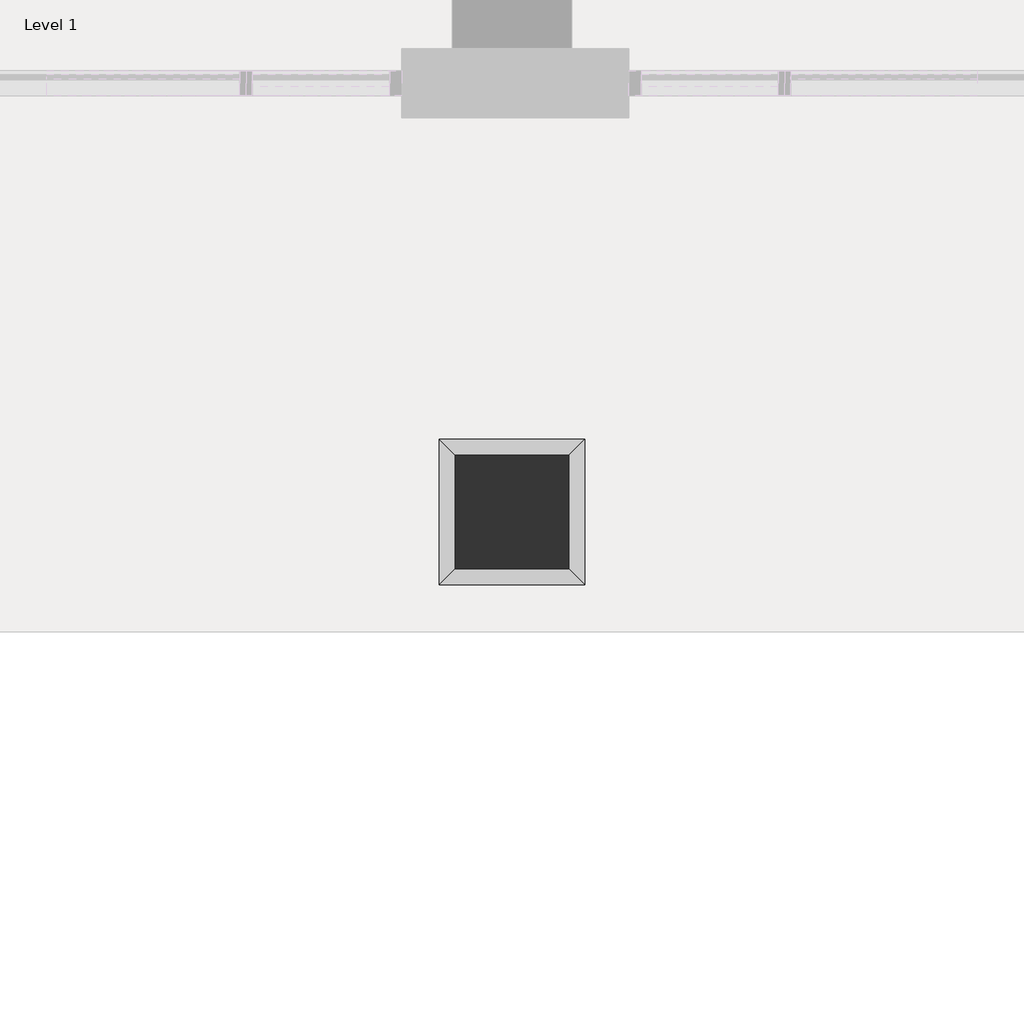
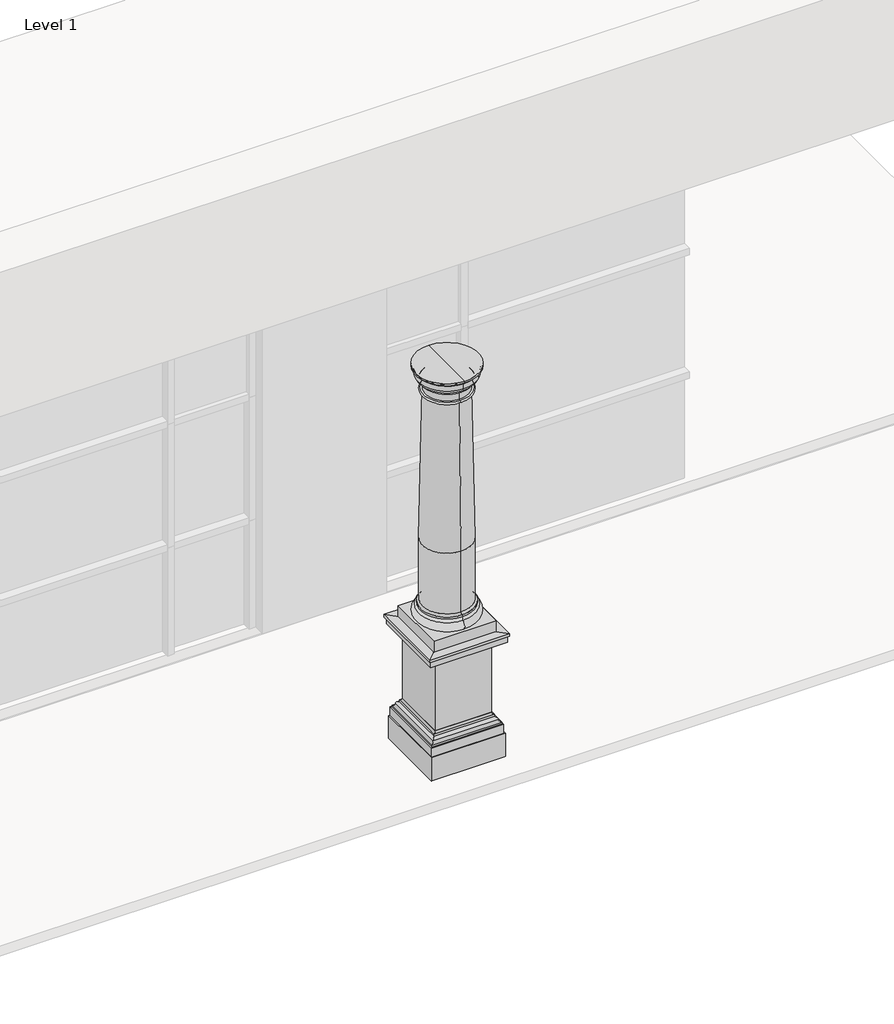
# One storey, part 6 of 8: 1 column.
"""IFC4 building model written with IfcOpenShell, lengths in millimetres."""

from ifc_helpers import new_model, si_unit, point, frame, origin, place, context, project, spatial, polyline, circle_curve, ellipse_curve, trimmed, outline, extrude, faceted_brep, element, save
from ifc_brep_helpers import plane_surface, cylinder_surface, revolved_surface, advanced_brep

model = new_model("IFC4")

# Units and contexts
model_context = context("Model", 3, world=origin())
ifc_project = project(units=[si_unit("LENGTHUNIT", "METRE", prefix="MILLI")], contexts=[model_context])

# Site, building, storey
site = spatial("IfcSite", under=ifc_project)
building = spatial("IfcBuilding", under=site)
storey = spatial("IfcBuildingStorey", under=building, Name="Level 1", Elevation=0.0)

# Column
placement = place(None, origin())
element("IfcColumn", 1, ObjectType="Doric Column : 16'  Height (10 2/3 x Dia.)", at=placement, inside=storey, context=model_context, shape_type="SolidModel", body=[
    extrude(outline(polyline([(10181.1733448, -1720.0769576), (10181.1733448, -2297.9269576), (9603.3233448, -2297.9269576), (9603.3233448, -1720.0769576), (10181.1733448, -1720.0769576)])), frame((0.0, 0.0, 1117.6), z_axis=(0.0, 0.0, 1.0), x_axis=(1.0, 0.0, 0.0)), (0.0, 0.0, 1.0), 107.95),
    faceted_brep([(9663.6483448, -2237.6019576, 1117.6), (9520.7733448, -2380.4769576, 1117.6), (10263.7233448, -2380.4769576, 1117.6), (10120.8483448, -2237.6019576, 1117.6), (9663.6483448, -2237.6019576, 1003.3), (10120.8483448, -2237.6019576, 1003.3), (9592.3654277, -2308.8848746, 1003.3), (10192.1312619, -2308.8848746, 1003.3), (9558.8733448, -2342.3769576, 1028.7), (10225.6233448, -2342.3769576, 1028.7), (9533.4733448, -2367.7769576, 1028.7), (10251.0233448, -2367.7769576, 1028.7), (9533.4733448, -2367.7769576, 1092.2), (10251.0233448, -2367.7769576, 1092.2), (9520.7733448, -2380.4769576, 1092.2), (10263.7233448, -2380.4769576, 1092.2), (10263.7233448, -1637.5269576, 1117.6), (10120.8483448, -1780.4019576, 1117.6), (10120.8483448, -1780.4019576, 1003.3), (10192.1312619, -1709.1190405, 1003.3), (10225.6233448, -1675.6269576, 1028.7), (10251.0233448, -1650.2269576, 1028.7), (10251.0233448, -1650.2269576, 1092.2), (10263.7233448, -1637.5269576, 1092.2), (9520.7733448, -1637.5269576, 1117.6), (9663.6483448, -1780.4019576, 1117.6), (9663.6483448, -1780.4019576, 1003.3), (9592.3654277, -1709.1190405, 1003.3), (9558.8733448, -1675.6269576, 1028.7), (9533.4733448, -1650.2269576, 1028.7), (9533.4733448, -1650.2269576, 1092.2), (9520.7733448, -1637.5269576, 1092.2)], [[[0, 1, 2, 3]], [[4, 0, 3, 5]], [[6, 4, 5, 7]], [[8, 6, 7, 9]], [[10, 8, 9, 11]], [[12, 10, 11, 13]], [[14, 12, 13, 15]], [[1, 14, 15, 2]], [[3, 2, 16, 17]], [[5, 3, 17, 18]], [[7, 5, 18, 19]], [[9, 7, 19, 20]], [[11, 9, 20, 21]], [[13, 11, 21, 22]], [[15, 13, 22, 23]], [[2, 15, 23, 16]], [[17, 16, 24, 25]], [[18, 17, 25, 26]], [[19, 18, 26, 27]], [[20, 19, 27, 28]], [[21, 20, 28, 29]], [[22, 21, 29, 30]], [[23, 22, 30, 31]], [[16, 23, 31, 24]], [[25, 24, 1, 0]], [[26, 25, 0, 4]], [[27, 26, 4, 6]], [[28, 27, 6, 8]], [[29, 28, 8, 10]], [[30, 29, 10, 12]], [[31, 30, 12, 14]], [[24, 31, 14, 1]]]),
    advanced_brep(
    [(9892.2483448, -2256.6519576, 1358.9), (9892.2483448, -1761.3519576, 1358.9), (9892.2483448, -1780.4019576, 1377.95), (9892.2483448, -2237.6019576, 1377.95), (9892.2483448, -1780.4019576, 1976.4375), (9892.2483448, -2237.6019576, 1976.4375), (9892.2483448, -2256.6519576, 1339.85), (9892.2483448, -1761.3519576, 1339.85), (9892.2483448, -2256.6519576, 1308.1), (9892.2483448, -1761.3519576, 1308.1), (9892.2483448, -2256.6519576, 1225.55), (9892.2483448, -1761.3519576, 1225.55), (9892.2483448, -2009.0019576, 1225.55), (9892.2483448, -1808.9769576, 3440.1125), (9892.2483448, -2209.0269576, 3440.1125), (9892.2483448, -2301.1019576, 3675.0625601), (9892.2483448, -1716.9019576, 3675.0625601), (9892.2483448, -1716.9019576, 3694.1125), (9892.2483448, -2301.1019576, 3694.1125), (9892.2483448, -2009.0019576, 3694.1125), (9892.2483448, -2282.0518974, 3656.0125), (9892.2483448, -1735.9520177, 3656.0125), (9892.2483448, -2278.8769576, 3656.0125), (9892.2483448, -1739.1269576, 3656.0125), (9892.2483448, -2278.8769576, 3605.2125), (9892.2483448, -1739.1269576, 3605.2125), (9892.2483448, -2272.5269576, 3605.2125), (9892.2483448, -1745.4769576, 3605.2125), (9892.2483448, -2228.0769576, 3560.7625), (9892.2483448, -1789.9269576, 3560.7625), (9892.2483448, -2228.0769576, 3541.7125), (9892.2483448, -1789.9269576, 3541.7125), (9892.2483448, -2209.0269576, 3541.7125), (9892.2483448, -1808.9769576, 3541.7125), (9892.2483448, -2209.0269576, 3459.1625), (9892.2483448, -1808.9769576, 3459.1625), (9892.2483448, -2228.0769576, 3459.1625), (9892.2483448, -1789.9269576, 3459.1625), (9892.2483448, -2228.0769576, 3440.1125), (9892.2483448, -1789.9269576, 3440.1125)],
    [
        (0, 1, circle_curve(frame((9892.2483448, -2009.0019576, 1358.9), z_axis=(0.0, 0.0, 1.0), x_axis=(0.0, 1.0, 0.0)), 247.65)),
        (1, 2, circle_curve(frame((9892.2483448, -1761.3519576, 1377.95), z_axis=(-1.0, 0.0, 0.0), x_axis=(0.0, -1.0, 0.0)), 19.05)),
        (2, 3, circle_curve(frame((9892.2483448, -2009.0019576, 1377.95), z_axis=(0.0, 0.0, -1.0), x_axis=(0.0, 1.0, 0.0)), 228.6)),
        (3, 0, circle_curve(frame((9892.2483448, -2256.6519576, 1377.95), z_axis=(-1.0, 0.0, 0.0), x_axis=(0.0, 1.0, 0.0)), 19.05)),
        (2, 4),
        (4, 5, circle_curve(frame((9892.2483448, -2009.0019576, 1976.4375), z_axis=(0.0, 0.0, -1.0), x_axis=(0.0, 1.0, 0.0)), 228.6)),
        (5, 3),
        (2, 3, circle_curve(frame((9892.2483448, -2009.0019576, 1377.95), z_axis=(0.0, 0.0, 1.0), x_axis=(0.0, 1.0, 0.0)), 228.6)),
        (5, 4, circle_curve(frame((9892.2483448, -2009.0019576, 1976.4375), z_axis=(0.0, 0.0, -1.0), x_axis=(0.0, 1.0, 0.0)), 228.6)),
        (1, 0, circle_curve(frame((9892.2483448, -2009.0019576, 1358.9), z_axis=(0.0, 0.0, 1.0), x_axis=(0.0, 1.0, 0.0)), 247.65)),
        (6, 7, circle_curve(frame((9892.2483448, -2009.0019576, 1339.85), z_axis=(0.0, 0.0, 1.0), x_axis=(0.0, 1.0, 0.0)), 247.65)),
        (7, 1),
        (0, 6),
        (7, 6, circle_curve(frame((9892.2483448, -2009.0019576, 1339.85), z_axis=(0.0, 0.0, 1.0), x_axis=(0.0, 1.0, 0.0)), 247.65)),
        (8, 9, circle_curve(frame((9892.2483448, -2009.0019576, 1308.1), z_axis=(0.0, 0.0, 1.0), x_axis=(0.0, 1.0, 0.0)), 247.65)),
        (9, 7, circle_curve(frame((9892.2483448, -1761.3519576, 1323.975), z_axis=(1.0, 0.0, 0.0), x_axis=(0.0, -1.0, 0.0)), 15.875)),
        (6, 8, circle_curve(frame((9892.2483448, -2256.6519576, 1323.975), z_axis=(1.0, 0.0, 0.0), x_axis=(0.0, 1.0, 0.0)), 15.875)),
        (9, 8, circle_curve(frame((9892.2483448, -2009.0019576, 1308.1), z_axis=(0.0, 0.0, 1.0), x_axis=(0.0, 1.0, 0.0)), 247.65)),
        (10, 11, circle_curve(frame((9892.2483448, -2009.0019576, 1225.55), z_axis=(0.0, 0.0, 1.0), x_axis=(0.0, 1.0, 0.0)), 247.65)),
        (11, 9, circle_curve(frame((9892.2483448, -1761.3519576, 1266.825), z_axis=(1.0, 0.0, 0.0), x_axis=(0.0, -1.0, 0.0)), 41.275)),
        (8, 10, circle_curve(frame((9892.2483448, -2256.6519576, 1266.825), z_axis=(1.0, 0.0, 0.0), x_axis=(0.0, 1.0, 0.0)), 41.275)),
        (11, 10, circle_curve(frame((9892.2483448, -2009.0019576, 1225.55), z_axis=(0.0, 0.0, 1.0), x_axis=(0.0, 1.0, 0.0)), 247.65)),
        (12, 11),
        (10, 12),
        (4, 13),
        (13, 14, circle_curve(frame((9892.2483448, -2009.0019576, 3440.1125), z_axis=(0.0, 0.0, -1.0), x_axis=(0.0, 1.0, 0.0)), 200.025)),
        (14, 5),
        (14, 13, circle_curve(frame((9892.2483448, -2009.0019576, 3440.1125), z_axis=(0.0, 0.0, -1.0), x_axis=(0.0, 1.0, 0.0)), 200.025)),
        (15, 16, circle_curve(frame((9892.2483448, -2009.0019576, 3675.0625601), z_axis=(0.0, 0.0, 1.0), x_axis=(0.0, 1.0, 0.0)), 292.1)),
        (16, 17),
        (17, 18, circle_curve(frame((9892.2483448, -2009.0019576, 3694.1125), z_axis=(0.0, 0.0, -1.0), x_axis=(0.0, 1.0, 0.0)), 292.1)),
        (18, 15),
        (17, 19),
        (19, 18),
        (17, 18, circle_curve(frame((9892.2483448, -2009.0019576, 3694.1125), z_axis=(0.0, 0.0, 1.0), x_axis=(0.0, 1.0, 0.0)), 292.1)),
        (16, 15, circle_curve(frame((9892.2483448, -2009.0019576, 3675.0625601), z_axis=(0.0, 0.0, 1.0), x_axis=(0.0, 1.0, 0.0)), 292.1)),
        (20, 21, circle_curve(frame((9892.2483448, -2009.0019576, 3656.0125), z_axis=(0.0, 0.0, 1.0), x_axis=(0.0, 1.0, 0.0)), 273.0499399)),
        (21, 16, circle_curve(frame((9892.2483448, -1716.9019576, 3656.0125), z_axis=(-1.0, 0.0, 0.0), x_axis=(0.0, -1.0, 0.0)), 19.0500601)),
        (15, 20, circle_curve(frame((9892.2483448, -2301.1019576, 3656.0125), z_axis=(-1.0, 0.0, 0.0), x_axis=(0.0, 1.0, 0.0)), 19.0500601)),
        (21, 20, circle_curve(frame((9892.2483448, -2009.0019576, 3656.0125), z_axis=(0.0, 0.0, 1.0), x_axis=(0.0, 1.0, 0.0)), 273.0499399)),
        (22, 23, circle_curve(frame((9892.2483448, -2009.0019576, 3656.0125), z_axis=(0.0, 0.0, 1.0), x_axis=(0.0, 1.0, 0.0)), 269.875)),
        (23, 21),
        (20, 22),
        (23, 22, circle_curve(frame((9892.2483448, -2009.0019576, 3656.0125), z_axis=(0.0, 0.0, 1.0), x_axis=(0.0, 1.0, 0.0)), 269.875)),
        (24, 25, circle_curve(frame((9892.2483448, -2009.0019576, 3605.2125), z_axis=(0.0, 0.0, 1.0), x_axis=(0.0, 1.0, 0.0)), 269.875)),
        (25, 23),
        (22, 24),
        (25, 24, circle_curve(frame((9892.2483448, -2009.0019576, 3605.2125), z_axis=(0.0, 0.0, 1.0), x_axis=(0.0, 1.0, 0.0)), 269.875)),
        (26, 27, circle_curve(frame((9892.2483448, -2009.0019576, 3605.2125), z_axis=(0.0, 0.0, 1.0), x_axis=(0.0, 1.0, 0.0)), 263.525)),
        (27, 25),
        (24, 26),
        (27, 26, circle_curve(frame((9892.2483448, -2009.0019576, 3605.2125), z_axis=(0.0, 0.0, 1.0), x_axis=(0.0, 1.0, 0.0)), 263.525)),
        (28, 29, circle_curve(frame((9892.2483448, -2009.0019576, 3560.7625), z_axis=(0.0, 0.0, 1.0), x_axis=(0.0, 1.0, 0.0)), 219.075)),
        (29, 27, circle_curve(frame((9892.2483448, -1789.9269576, 3605.2125), z_axis=(1.0, 0.0, 0.0), x_axis=(0.0, -1.0, 0.0)), 44.45)),
        (26, 28, circle_curve(frame((9892.2483448, -2228.0769576, 3605.2125), z_axis=(1.0, 0.0, 0.0), x_axis=(0.0, 1.0, 0.0)), 44.45)),
        (29, 28, circle_curve(frame((9892.2483448, -2009.0019576, 3560.7625), z_axis=(0.0, 0.0, 1.0), x_axis=(0.0, 1.0, 0.0)), 219.075)),
        (30, 31, circle_curve(frame((9892.2483448, -2009.0019576, 3541.7125), z_axis=(0.0, 0.0, 1.0), x_axis=(0.0, 1.0, 0.0)), 219.075)),
        (31, 29, circle_curve(frame((9892.2483448, -1789.9269576, 3551.2375), z_axis=(1.0, 0.0, 0.0), x_axis=(0.0, -1.0, 0.0)), 9.525)),
        (28, 30, circle_curve(frame((9892.2483448, -2228.0769576, 3551.2375), z_axis=(1.0, 0.0, 0.0), x_axis=(0.0, 1.0, 0.0)), 9.525)),
        (31, 30, circle_curve(frame((9892.2483448, -2009.0019576, 3541.7125), z_axis=(0.0, 0.0, 1.0), x_axis=(0.0, 1.0, 0.0)), 219.075)),
        (32, 33, circle_curve(frame((9892.2483448, -2009.0019576, 3541.7125), z_axis=(0.0, 0.0, 1.0), x_axis=(0.0, 1.0, 0.0)), 200.025)),
        (33, 31),
        (30, 32),
        (33, 32, circle_curve(frame((9892.2483448, -2009.0019576, 3541.7125), z_axis=(0.0, 0.0, 1.0), x_axis=(0.0, 1.0, 0.0)), 200.025)),
        (34, 35, circle_curve(frame((9892.2483448, -2009.0019576, 3459.1625), z_axis=(0.0, 0.0, 1.0), x_axis=(0.0, 1.0, 0.0)), 200.025)),
        (35, 33),
        (32, 34),
        (35, 34, circle_curve(frame((9892.2483448, -2009.0019576, 3459.1625), z_axis=(0.0, 0.0, 1.0), x_axis=(0.0, 1.0, 0.0)), 200.025)),
        (36, 37, circle_curve(frame((9892.2483448, -2009.0019576, 3459.1625), z_axis=(0.0, 0.0, 1.0), x_axis=(0.0, 1.0, 0.0)), 219.075)),
        (37, 35),
        (34, 36),
        (37, 36, circle_curve(frame((9892.2483448, -2009.0019576, 3459.1625), z_axis=(0.0, 0.0, 1.0), x_axis=(0.0, 1.0, 0.0)), 219.075)),
        (38, 39, circle_curve(frame((9892.2483448, -2009.0019576, 3440.1125), z_axis=(0.0, 0.0, 1.0), x_axis=(0.0, 1.0, 0.0)), 219.075)),
        (39, 37, circle_curve(frame((9892.2483448, -1789.9269576, 3449.6375), z_axis=(1.0, 0.0, 0.0), x_axis=(0.0, -1.0, 0.0)), 9.525)),
        (36, 38, circle_curve(frame((9892.2483448, -2228.0769576, 3449.6375), z_axis=(1.0, 0.0, 0.0), x_axis=(0.0, 1.0, 0.0)), 9.525)),
        (39, 38, circle_curve(frame((9892.2483448, -2009.0019576, 3440.1125), z_axis=(0.0, 0.0, 1.0), x_axis=(0.0, 1.0, 0.0)), 219.075)),
        (13, 39),
        (38, 14),
    ],
    [
        revolved_surface(trimmed(ellipse_curve(frame((9892.2483448, -1761.3519576, 1377.95), z_axis=(1.0, 0.0, 0.0), x_axis=(0.0, -1.0, 0.0)), 19.05, 19.05), [point((9892.2483448, -1780.4019576, 1377.95))], [point((9892.2483448, -1761.3519576, 1358.9))], True, "CARTESIAN"), (9892.2483448, -2009.0019576, 3694.1125), (0.0, 0.0, -1.0)),
        cylinder_surface(frame((9892.2483448, -2009.0019576, 3694.1125), z_axis=(0.0, 0.0, -1.0), x_axis=(0.0, 1.0, 0.0)), 228.6),
        cylinder_surface(frame((9892.2483448, -2009.0019576, 3694.1125), z_axis=(0.0, 0.0, -1.0), x_axis=(0.0, 1.0, 0.0)), 247.65),
        revolved_surface(trimmed(ellipse_curve(frame((9892.2483448, -1761.3519576, 1323.975), z_axis=(-1.0, 0.0, 0.0), x_axis=(0.0, -1.0, 0.0)), 15.875, 15.875), [point((9892.2483448, -1761.3519576, 1339.85))], [point((9892.2483448, -1761.3519576, 1308.1))], True, "CARTESIAN"), (9892.2483448, -2009.0019576, 3694.1125), (0.0, 0.0, -1.0)),
        revolved_surface(trimmed(ellipse_curve(frame((9892.2483448, -1761.3519576, 1266.825), z_axis=(-1.0, 0.0, 0.0), x_axis=(0.0, -1.0, 0.0)), 41.275, 41.275), [point((9892.2483448, -1761.3519576, 1308.1))], [point((9892.2483448, -1761.3519576, 1225.55))], True, "CARTESIAN"), (9892.2483448, -2009.0019576, 3694.1125), (0.0, 0.0, -1.0)),
        plane_surface(frame((9892.2483448, -2009.0019576, 1225.55), z_axis=(0.0, 0.0, -1.0), x_axis=(0.0, 1.0, 0.0))),
        revolved_surface(polyline([(9892.2483448, -1808.9769576, 3440.1125), (9892.2483448, -1780.4019576, 1976.4375)]), (9892.2483448, -2009.0019576, 3694.1125), (0.0, 0.0, -1.0)),
        cylinder_surface(frame((9892.2483448, -2009.0019576, 3694.1125), z_axis=(0.0, 0.0, -1.0), x_axis=(0.0, 1.0, 0.0)), 292.1),
        plane_surface(frame((9892.2483448, -2009.0019576, 3694.1125), z_axis=(0.0, 0.0, 1.0), x_axis=(0.0, 1.0, 0.0))),
        revolved_surface(trimmed(ellipse_curve(frame((9892.2483448, -1716.9019576, 3656.0125), z_axis=(1.0, 0.0, 0.0), x_axis=(0.0, -1.0, 0.0)), 19.0500601, 19.0500601), [point((9892.2483448, -1716.9019576, 3675.0625601))], [point((9892.2483448, -1735.9520177, 3656.0125))], True, "CARTESIAN"), (9892.2483448, -2009.0019576, 3694.1125), (0.0, 0.0, -1.0)),
        plane_surface(frame((9892.2483448, -2009.0019576, 3656.0125), z_axis=(0.0, 0.0, -1.0), x_axis=(0.0, 1.0, 0.0))),
        cylinder_surface(frame((9892.2483448, -2009.0019576, 3694.1125), z_axis=(0.0, 0.0, -1.0), x_axis=(0.0, 1.0, 0.0)), 269.875),
        plane_surface(frame((9892.2483448, -2009.0019576, 3605.2125), z_axis=(0.0, 0.0, -1.0), x_axis=(0.0, 1.0, 0.0))),
        revolved_surface(trimmed(ellipse_curve(frame((9892.2483448, -1789.9269576, 3605.2125), z_axis=(-1.0, 0.0, 0.0), x_axis=(0.0, -1.0, 0.0)), 44.45, 44.45), [point((9892.2483448, -1745.4769576, 3605.2125))], [point((9892.2483448, -1789.9269576, 3560.7625))], True, "CARTESIAN"), (9892.2483448, -2009.0019576, 3694.1125), (0.0, 0.0, -1.0)),
        revolved_surface(trimmed(ellipse_curve(frame((9892.2483448, -1789.9269576, 3551.2375), z_axis=(-1.0, 0.0, 0.0), x_axis=(0.0, -1.0, 0.0)), 9.525, 9.525), [point((9892.2483448, -1789.9269576, 3560.7625))], [point((9892.2483448, -1789.9269576, 3541.7125))], True, "CARTESIAN"), (9892.2483448, -2009.0019576, 3694.1125), (0.0, 0.0, -1.0)),
        plane_surface(frame((9892.2483448, -2009.0019576, 3541.7125), z_axis=(0.0, 0.0, -1.0), x_axis=(0.0, 1.0, 0.0))),
        cylinder_surface(frame((9892.2483448, -2009.0019576, 3694.1125), z_axis=(0.0, 0.0, -1.0), x_axis=(0.0, 1.0, 0.0)), 200.025),
        plane_surface(frame((9892.2483448, -2009.0019576, 3459.1625), z_axis=(0.0, 0.0, 1.0), x_axis=(0.0, 1.0, 0.0))),
        revolved_surface(trimmed(ellipse_curve(frame((9892.2483448, -1789.9269576, 3449.6375), z_axis=(-1.0, 0.0, 0.0), x_axis=(0.0, -1.0, 0.0)), 9.525, 9.525), [point((9892.2483448, -1789.9269576, 3459.1625))], [point((9892.2483448, -1789.9269576, 3440.1125))], True, "CARTESIAN"), (9892.2483448, -2009.0019576, 3694.1125), (0.0, 0.0, -1.0)),
        plane_surface(frame((9892.2483448, -2009.0019576, 3440.1125), z_axis=(0.0, 0.0, -1.0), x_axis=(0.0, 1.0, 0.0))),
    ],
    [
        (0, [[1, 2, 3, 4]]),
        (1, [[-3, 5, 6, 7]]),
        (1, [[8, -7, 9, -5]]),
        (0, [[10, -4, -8, -2]]),
        (2, [[11, 12, -1, 13]]),
        (2, [[14, -13, -10, -12]]),
        (3, [[15, 16, -11, 17]]),
        (3, [[18, -17, -14, -16]]),
        (4, [[19, 20, -15, 21]]),
        (4, [[22, -21, -18, -20]]),
        (5, [[23, -19, 24]]),
        (5, [[-24, -22, -23]]),
        (6, [[-6, 25, 26, 27]]),
        (6, [[-9, -27, 28, -25]]),
        (7, [[29, 30, 31, 32]]),
        (8, [[-31, 33, 34]]),
        (8, [[35, -34, -33]]),
        (7, [[36, -32, -35, -30]]),
        (9, [[37, 38, -29, 39]]),
        (9, [[40, -39, -36, -38]]),
        (10, [[41, 42, -37, 43]]),
        (10, [[44, -43, -40, -42]]),
        (11, [[45, 46, -41, 47]]),
        (11, [[48, -47, -44, -46]]),
        (12, [[49, 50, -45, 51]]),
        (12, [[52, -51, -48, -50]]),
        (13, [[53, 54, -49, 55]]),
        (13, [[56, -55, -52, -54]]),
        (14, [[57, 58, -53, 59]]),
        (14, [[60, -59, -56, -58]]),
        (15, [[61, 62, -57, 63]]),
        (15, [[64, -63, -60, -62]]),
        (16, [[65, 66, -61, 67]]),
        (16, [[68, -67, -64, -66]]),
        (17, [[69, 70, -65, 71]]),
        (17, [[72, -71, -68, -70]]),
        (18, [[73, 74, -69, 75]]),
        (18, [[76, -75, -72, -74]]),
        (19, [[-26, 77, -73, 78]]),
        (19, [[-28, -78, -76, -77]]),
    ],
),
    advanced_brep(
    [(10237.6934911, -1663.5568112, -101.6), (10237.6934911, -1663.5568112, 127.0), (10237.6934911, -2354.4471039, 127.0), (10237.6934911, -2354.4471039, -101.6), (10120.8483448, -1780.4019576, -101.6), (10120.8483448, -2237.6019576, -101.6), (10120.8483448, -1780.4019576, 317.5), (10120.8483448, -2237.6019576, 317.5), (10155.1434911, -1746.1068112, 317.5), (10155.1434911, -2271.8971039, 317.5), (10174.1934911, -1727.0568112, 298.45), (10174.1934911, -2290.9471039, 298.45), (10174.1934911, -1727.0568112, 279.4), (10174.1934911, -2290.9471039, 279.4), (10196.4184911, -1704.8318112, 257.175), (10196.4184911, -2313.1721039, 257.175), (10218.6434911, -1682.6068112, 234.95), (10218.6434911, -2335.3971039, 234.95), (10218.6434911, -1682.6068112, 215.9), (10218.6434911, -2335.3971039, 215.9), (10228.1684911, -1673.0818112, 215.9), (10228.1684911, -2344.9221039, 215.9), (10228.1684911, -1673.0818112, 127.0), (10228.1684911, -2344.9221039, 127.0), (9546.8031985, -2354.4471039, 127.0), (9546.8031985, -2354.4471039, -101.6), (9663.6483448, -2237.6019576, -101.6), (9663.6483448, -2237.6019576, 317.5), (9629.3531985, -2271.8971039, 317.5), (9610.3031985, -2290.9471039, 298.45), (9610.3031985, -2290.9471039, 279.4), (9588.0781985, -2313.1721039, 257.175), (9565.8531985, -2335.3971039, 234.95), (9565.8531985, -2335.3971039, 215.9), (9556.3281985, -2344.9221039, 215.9), (9556.3281985, -2344.9221039, 127.0), (9546.8031985, -1663.5568112, 127.0), (9546.8031985, -1663.5568112, -101.6), (9663.6483448, -1780.4019576, -101.6), (9663.6483448, -1780.4019576, 317.5), (9629.3531985, -1746.1068112, 317.5), (9610.3031985, -1727.0568112, 298.45), (9610.3031985, -1727.0568112, 279.4), (9588.0781985, -1704.8318112, 257.175), (9565.8531985, -1682.6068112, 234.95), (9565.8531985, -1682.6068112, 215.9), (9556.3281985, -1673.0818112, 215.9), (9556.3281985, -1673.0818112, 127.0)],
    [
        (0, 1),
        (1, 2),
        (2, 3),
        (3, 0),
        (4, 0),
        (3, 5),
        (5, 4),
        (6, 4),
        (5, 7),
        (7, 6),
        (8, 6),
        (7, 9),
        (9, 8),
        (10, 8, ellipse_curve(frame((10174.1934911, -1727.0568112, 317.5), z_axis=(-0.7071067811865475, 0.7071067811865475, 0.0), x_axis=(-0.7071067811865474, -0.7071067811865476, 0.0)), 26.9407684, 19.05)),
        (9, 11, ellipse_curve(frame((10174.1934911, -2290.9471039, 317.5), z_axis=(-0.7071067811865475, -0.7071067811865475, 0.0), x_axis=(0.7071067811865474, -0.7071067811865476, 0.0)), 26.9407684, 19.05)),
        (11, 10),
        (12, 10),
        (11, 13),
        (13, 12),
        (14, 12, ellipse_curve(frame((10174.1934911, -1727.0568112, 257.175), z_axis=(0.7071067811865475, -0.7071067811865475, 0.0), x_axis=(0.7071067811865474, 0.7071067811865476, 0.0)), 31.4308964, 22.225)),
        (13, 15, ellipse_curve(frame((10174.1934911, -2290.9471039, 257.175), z_axis=(0.7071067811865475, 0.7071067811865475, 0.0), x_axis=(-0.7071067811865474, 0.7071067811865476, 0.0)), 31.4308964, 22.225)),
        (15, 14),
        (16, 14, ellipse_curve(frame((10218.6434911, -1682.6068112, 257.175), z_axis=(-0.7071067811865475, 0.7071067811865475, 0.0), x_axis=(-0.7071067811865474, -0.7071067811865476, 0.0)), 31.4308964, 22.225)),
        (15, 17, ellipse_curve(frame((10218.6434911, -2335.3971039, 257.175), z_axis=(-0.7071067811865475, -0.7071067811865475, 0.0), x_axis=(0.7071067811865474, -0.7071067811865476, 0.0)), 31.4308964, 22.225)),
        (17, 16),
        (18, 16),
        (17, 19),
        (19, 18),
        (20, 18),
        (19, 21),
        (21, 20),
        (22, 20),
        (21, 23),
        (23, 22),
        (1, 22),
        (23, 2),
        (2, 24),
        (24, 25),
        (25, 3),
        (25, 26),
        (26, 5),
        (26, 27),
        (27, 7),
        (27, 28),
        (28, 9),
        (28, 29, ellipse_curve(frame((9610.3031985, -2290.9471039, 317.5), z_axis=(-0.7071067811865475, 0.7071067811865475, 0.0), x_axis=(-0.7071067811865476, -0.7071067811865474, 0.0)), 26.9407684, 19.05)),
        (29, 11),
        (29, 30),
        (30, 13),
        (30, 31, ellipse_curve(frame((9610.3031985, -2290.9471039, 257.175), z_axis=(0.7071067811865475, -0.7071067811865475, 0.0), x_axis=(0.7071067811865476, 0.7071067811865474, 0.0)), 31.4308964, 22.225)),
        (31, 15),
        (31, 32, ellipse_curve(frame((9565.8531985, -2335.3971039, 257.175), z_axis=(-0.7071067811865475, 0.7071067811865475, 0.0), x_axis=(-0.7071067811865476, -0.7071067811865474, 0.0)), 31.4308964, 22.225)),
        (32, 17),
        (32, 33),
        (33, 19),
        (33, 34),
        (34, 21),
        (34, 35),
        (35, 23),
        (35, 24),
        (24, 36),
        (36, 37),
        (37, 25),
        (37, 38),
        (38, 26),
        (38, 39),
        (39, 27),
        (39, 40),
        (40, 28),
        (40, 41, ellipse_curve(frame((9610.3031985, -1727.0568112, 317.5), z_axis=(0.7071067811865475, 0.7071067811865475, 0.0), x_axis=(-0.7071067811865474, 0.7071067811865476, 0.0)), 26.9407684, 19.05)),
        (41, 29),
        (41, 42),
        (42, 30),
        (42, 43, ellipse_curve(frame((9610.3031985, -1727.0568112, 257.175), z_axis=(-0.7071067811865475, -0.7071067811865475, 0.0), x_axis=(0.7071067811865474, -0.7071067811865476, 0.0)), 31.4308964, 22.225)),
        (43, 31),
        (43, 44, ellipse_curve(frame((9565.8531985, -1682.6068112, 257.175), z_axis=(0.7071067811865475, 0.7071067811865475, 0.0), x_axis=(-0.7071067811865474, 0.7071067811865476, 0.0)), 31.4308964, 22.225)),
        (44, 32),
        (44, 45),
        (45, 33),
        (45, 46),
        (46, 34),
        (46, 47),
        (47, 35),
        (47, 36),
        (36, 1),
        (0, 37),
        (4, 38),
        (6, 39),
        (8, 40),
        (10, 41),
        (12, 42),
        (14, 43),
        (16, 44),
        (18, 45),
        (20, 46),
        (22, 47),
    ],
    [
        plane_surface(frame((10237.6934911, -1663.5568112, 127.0), z_axis=(1.0, 0.0, 0.0), x_axis=(0.0, -1.0, 0.0))),
        plane_surface(frame((10237.6934911, -1663.5568112, -101.6), z_axis=(0.0, 0.0, -1.0), x_axis=(0.0, -1.0, 0.0))),
        plane_surface(frame((10120.8483448, -1780.4019576, -101.6), z_axis=(-1.0, 0.0, 0.0), x_axis=(0.0, -1.0, 0.0))),
        plane_surface(frame((10120.8483448, -1780.4019576, 317.5), z_axis=(0.0, 0.0, 1.0), x_axis=(0.0, -1.0, 0.0))),
        revolved_surface(polyline([(10193.2434911, -2309.9971039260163, 317.5), (10193.2434911, -1708.0068111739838, 317.5)]), (10174.1934911, -1650.5418844, 317.5), (0.0, -1.0, 0.0)),
        plane_surface(frame((10174.1934911, -1727.0568112, 298.45), z_axis=(1.0, 0.0, 0.0), x_axis=(0.0, -1.0, 0.0))),
        cylinder_surface(frame((10174.1934911, -1650.5418844, 257.175), z_axis=(0.0, 1.0, 0.0), x_axis=(1.0, 0.0, 0.0)), 22.225),
        revolved_surface(polyline([(10240.8684911, -2357.622103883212, 257.175), (10240.8684911, -1660.3818112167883, 257.175)]), (10218.6434911, -1650.5418844, 257.175), (0.0, -1.0, 0.0)),
        plane_surface(frame((10218.6434911, -1682.6068112, 234.95), z_axis=(1.0, 0.0, 0.0), x_axis=(0.0, -1.0, 0.0))),
        plane_surface(frame((10218.6434911, -1682.6068112, 215.9), z_axis=(0.0, 0.0, 1.0), x_axis=(0.0, -1.0, 0.0))),
        plane_surface(frame((10228.1684911, -1673.0818112, 215.9), z_axis=(1.0, 0.0, 0.0), x_axis=(0.0, -1.0, 0.0))),
        plane_surface(frame((10228.1684911, -1673.0818112, 127.0), z_axis=(0.0, 0.0, 1.0), x_axis=(0.0, -1.0, 0.0))),
        plane_surface(frame((10237.6934911, -2354.4471039, 127.0), z_axis=(0.0, -1.0, 0.0), x_axis=(-1.0, 0.0, 0.0))),
        plane_surface(frame((10237.6934911, -2354.4471039, -101.6), z_axis=(0.0, 0.0, -1.0), x_axis=(-1.0, 0.0, 0.0))),
        plane_surface(frame((10120.8483448, -2237.6019576, -101.6), z_axis=(0.0, 1.0, 0.0), x_axis=(-1.0, 0.0, 0.0))),
        plane_surface(frame((10120.8483448, -2237.6019576, 317.5), z_axis=(0.0, 0.0, 1.0), x_axis=(-1.0, 0.0, 0.0))),
        revolved_surface(polyline([(9591.253198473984, -2309.9971039, 317.5), (10193.243491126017, -2309.9971039, 317.5)]), (10250.708418, -2290.9471039, 317.5), (-1.0, 0.0, 0.0)),
        plane_surface(frame((10174.1934911, -2290.9471039, 298.45), z_axis=(0.0, -1.0, 0.0), x_axis=(-1.0, 0.0, 0.0))),
        cylinder_surface(frame((10250.708418, -2290.9471039, 257.175), z_axis=(1.0, 0.0, 0.0), x_axis=(0.0, -1.0, 0.0)), 22.225),
        revolved_surface(polyline([(9543.62819851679, -2357.6221038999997, 257.175), (10240.86849108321, -2357.6221038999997, 257.175)]), (10250.708418, -2335.3971039, 257.175), (-1.0, 0.0, 0.0)),
        plane_surface(frame((10218.6434911, -2335.3971039, 234.95), z_axis=(0.0, -1.0, 0.0), x_axis=(-1.0, 0.0, 0.0))),
        plane_surface(frame((10218.6434911, -2335.3971039, 215.9), z_axis=(0.0, 0.0, 1.0), x_axis=(-1.0, 0.0, 0.0))),
        plane_surface(frame((10228.1684911, -2344.9221039, 215.9), z_axis=(0.0, -1.0, 0.0), x_axis=(-1.0, 0.0, 0.0))),
        plane_surface(frame((10228.1684911, -2344.9221039, 127.0), z_axis=(0.0, 0.0, 1.0), x_axis=(-1.0, 0.0, 0.0))),
        plane_surface(frame((9546.8031985, -2354.4471039, 127.0), z_axis=(-1.0, 0.0, 0.0), x_axis=(0.0, 1.0, 0.0))),
        plane_surface(frame((9546.8031985, -2354.4471039, -101.6), z_axis=(0.0, 0.0, -1.0), x_axis=(0.0, 1.0, 0.0))),
        plane_surface(frame((9663.6483448, -2237.6019576, -101.6), z_axis=(1.0, 0.0, 0.0), x_axis=(0.0, 1.0, 0.0))),
        plane_surface(frame((9663.6483448, -2237.6019576, 317.5), z_axis=(0.0, 0.0, 1.0), x_axis=(0.0, 1.0, 0.0))),
        revolved_surface(polyline([(9591.2531985, -1708.0068111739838, 317.5), (9591.2531985, -2309.9971039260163, 317.5)]), (9610.3031985, -2367.4620307, 317.5), (0.0, 1.0, 0.0)),
        plane_surface(frame((9610.3031985, -2290.9471039, 298.45), z_axis=(-1.0, 0.0, 0.0), x_axis=(0.0, 1.0, 0.0))),
        cylinder_surface(frame((9610.3031985, -2367.4620307, 257.175), z_axis=(0.0, -1.0, 0.0), x_axis=(-1.0, 0.0, 0.0)), 22.225),
        revolved_surface(polyline([(9543.6281985, -1660.3818112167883, 257.175), (9543.6281985, -2357.622103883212, 257.175)]), (9565.8531985, -2367.4620307, 257.175), (0.0, 1.0, 0.0)),
        plane_surface(frame((9565.8531985, -2335.3971039, 234.95), z_axis=(-1.0, 0.0, 0.0), x_axis=(0.0, 1.0, 0.0))),
        plane_surface(frame((9565.8531985, -2335.3971039, 215.9), z_axis=(0.0, 0.0, 1.0), x_axis=(0.0, 1.0, 0.0))),
        plane_surface(frame((9556.3281985, -2344.9221039, 215.9), z_axis=(-1.0, 0.0, 0.0), x_axis=(0.0, 1.0, 0.0))),
        plane_surface(frame((9556.3281985, -2344.9221039, 127.0), z_axis=(0.0, 0.0, 1.0), x_axis=(0.0, 1.0, 0.0))),
        plane_surface(frame((9546.8031985, -1663.5568112, 127.0), z_axis=(0.0, 1.0, 0.0), x_axis=(1.0, 0.0, 0.0))),
        plane_surface(frame((9546.8031985, -1663.5568112, -101.6), z_axis=(0.0, 0.0, -1.0), x_axis=(1.0, 0.0, 0.0))),
        plane_surface(frame((9663.6483448, -1780.4019576, -101.6), z_axis=(0.0, -1.0, 0.0), x_axis=(1.0, 0.0, 0.0))),
        plane_surface(frame((9663.6483448, -1780.4019576, 317.5), z_axis=(0.0, 0.0, 1.0), x_axis=(1.0, 0.0, 0.0))),
        revolved_surface(polyline([(10193.243491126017, -1708.0068112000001, 317.5), (9591.253198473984, -1708.0068112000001, 317.5)]), (9533.7882717, -1727.0568112, 317.5), (1.0, 0.0, 0.0)),
        plane_surface(frame((9610.3031985, -1727.0568112, 298.45), z_axis=(0.0, 1.0, 0.0), x_axis=(1.0, 0.0, 0.0))),
        cylinder_surface(frame((9533.7882717, -1727.0568112, 257.175), z_axis=(-1.0, 0.0, 0.0), x_axis=(0.0, 1.0, 0.0)), 22.225),
        revolved_surface(polyline([(10240.86849108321, -1660.3818112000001, 257.175), (9543.62819851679, -1660.3818112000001, 257.175)]), (9533.7882717, -1682.6068112, 257.175), (1.0, 0.0, 0.0)),
        plane_surface(frame((9565.8531985, -1682.6068112, 234.95), z_axis=(0.0, 1.0, 0.0), x_axis=(1.0, 0.0, 0.0))),
        plane_surface(frame((9565.8531985, -1682.6068112, 215.9), z_axis=(0.0, 0.0, 1.0), x_axis=(1.0, 0.0, 0.0))),
        plane_surface(frame((9556.3281985, -1673.0818112, 215.9), z_axis=(0.0, 1.0, 0.0), x_axis=(1.0, 0.0, 0.0))),
        plane_surface(frame((9556.3281985, -1673.0818112, 127.0), z_axis=(0.0, 0.0, 1.0), x_axis=(1.0, 0.0, 0.0))),
    ],
    [
        (0, [[1, 2, 3, 4]]),
        (1, [[5, -4, 6, 7]]),
        (2, [[8, -7, 9, 10]]),
        (3, [[11, -10, 12, 13]]),
        (4, [[14, -13, 15, 16]]),
        (5, [[17, -16, 18, 19]]),
        (6, [[20, -19, 21, 22]]),
        (7, [[23, -22, 24, 25]]),
        (8, [[26, -25, 27, 28]]),
        (9, [[29, -28, 30, 31]]),
        (10, [[32, -31, 33, 34]]),
        (11, [[35, -34, 36, -2]]),
        (12, [[-3, 37, 38, 39]]),
        (13, [[-6, -39, 40, 41]]),
        (14, [[-9, -41, 42, 43]]),
        (15, [[-12, -43, 44, 45]]),
        (16, [[-15, -45, 46, 47]]),
        (17, [[-18, -47, 48, 49]]),
        (18, [[-21, -49, 50, 51]]),
        (19, [[-24, -51, 52, 53]]),
        (20, [[-27, -53, 54, 55]]),
        (21, [[-30, -55, 56, 57]]),
        (22, [[-33, -57, 58, 59]]),
        (23, [[-36, -59, 60, -37]]),
        (24, [[-38, 61, 62, 63]]),
        (25, [[-40, -63, 64, 65]]),
        (26, [[-42, -65, 66, 67]]),
        (27, [[-44, -67, 68, 69]]),
        (28, [[-46, -69, 70, 71]]),
        (29, [[-48, -71, 72, 73]]),
        (30, [[-50, -73, 74, 75]]),
        (31, [[-52, -75, 76, 77]]),
        (32, [[-54, -77, 78, 79]]),
        (33, [[-56, -79, 80, 81]]),
        (34, [[-58, -81, 82, 83]]),
        (35, [[-60, -83, 84, -61]]),
        (36, [[-62, 85, -1, 86]]),
        (37, [[-64, -86, -5, 87]]),
        (38, [[-66, -87, -8, 88]]),
        (39, [[-68, -88, -11, 89]]),
        (40, [[-70, -89, -14, 90]]),
        (41, [[-72, -90, -17, 91]]),
        (42, [[-74, -91, -20, 92]]),
        (43, [[-76, -92, -23, 93]]),
        (44, [[-78, -93, -26, 94]]),
        (45, [[-80, -94, -29, 95]]),
        (46, [[-82, -95, -32, 96]]),
        (47, [[-84, -96, -35, -85]]),
    ],
),
    extrude(outline(polyline([(10155.7733448, -1745.4769576), (10155.7733448, -2272.5269576), (9628.7233448, -2272.5269576), (9628.7233448, -1745.4769576), (10155.7733448, -1745.4769576)])), frame((0.0, 0.0, 317.5), z_axis=(0.0, 0.0, 1.0), x_axis=(1.0, 0.0, 0.0)), (0.0, 0.0, 1.0), 685.8),
])

save(model, "model.ifc")
